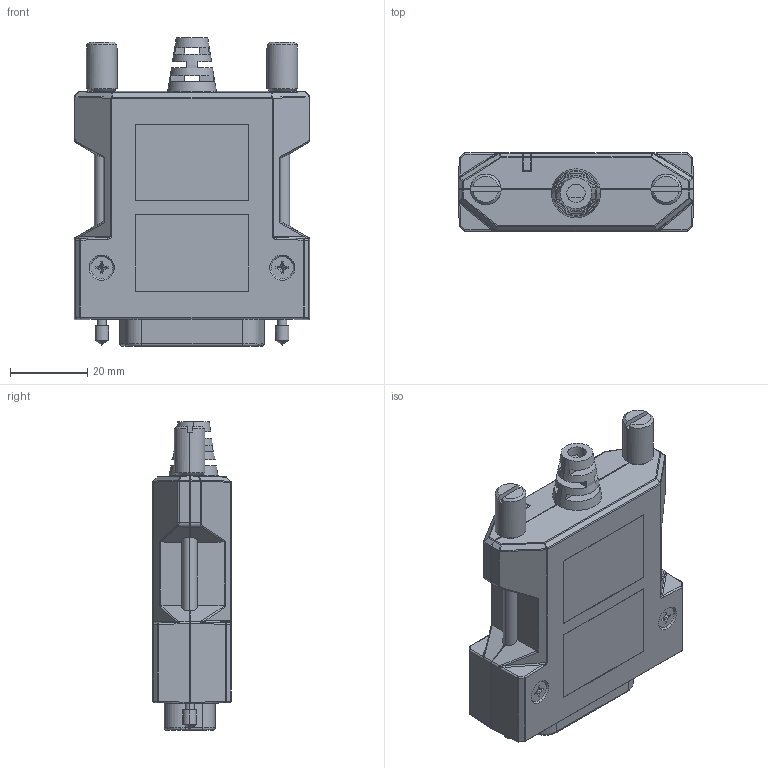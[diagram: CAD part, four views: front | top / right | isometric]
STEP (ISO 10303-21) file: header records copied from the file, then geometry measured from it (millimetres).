
FILE_DESCRIPTION((''),'2;1');
FILE_NAME('CU_GPIB-USB-HS_PLUS','2014-09-09T',('talbott'),(''),'PRO/ENGINEER BY PARAMETRIC TECHNOLOGY CORPORATION, 2014000','PRO/ENGINEER BY PARAMETRIC TECHNOLOGY CORPORATION, 2014000','');
FILE_SCHEMA(('CONFIG_CONTROL_DESIGN'));
Length unit declared in the file: inch
Products named in the file (1): CU_GPIB-USB-HS_PLUS
Bounding box: 61.2 x 20.32 x 79.95 mm (x, y, z)
Surface area: 28160.4 mm2 (no closed solid volume)
Topology: 0 solids, 11 shells, 1235 faces, 3447 edges, 2174 vertices
Faces by surface type: plane 789, cylinder 240, bspline 92, cone 60, sphere 40, torus 14
Entity records: 42665 total; most frequent: CARTESIAN_POINT 12288, ORIENTED_EDGE 6487, DIRECTION 5735, EDGE_CURVE 3411, VECTOR 2455, LINE 2455, VERTEX_POINT 2174, AXIS2_PLACEMENT_3D 1640
